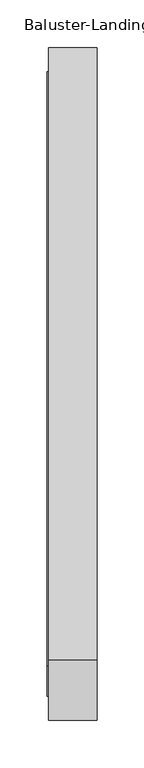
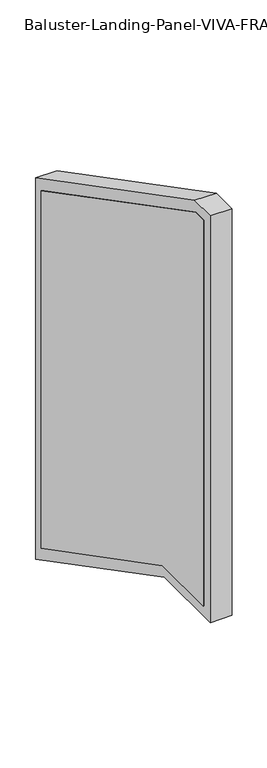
"""IFC4 building model written with IfcOpenShell, lengths in millimetres: railing geometry, Baluster-Landing-Panel-VIVA-FRAME-Lower : Standard_PP01."""

import ifcopenshell
import ifcopenshell.guid

model = None  # the IFC model being written
_history = None  # IfcOwnerHistory: only IFC2X3 demands one
_inside = {}  # id of a spatial element -> (the spatial element, [elements in it])
_under = {}  # id of a project, library or spatial element -> (it, [spatial elements below it])
_declared = {}  # id of a project -> (the project, [libraries it declares])
_typed = {}  # id of a type object -> (the type object, [elements of that type])
_made_of = {}  # id of a material, layer set ... -> (it, [elements and type objects made of it])


def new_model(schema):
    """Start an empty IFC model of exactly this schema.

    Asked for "IFC4X3", IfcOpenShell would pick the latest addendum, in which some entities
    have other attributes; the version numbers below select the first issue.
    IFC2X3 requires an IfcOwnerHistory on every rooted entity: one is made here for all.
    """
    global model, _history
    if schema == "IFC4X3":
        model = ifcopenshell.file(schema_version=(4, 3, 0, 0))
    else:
        model = ifcopenshell.file(schema=schema)
    _inside.clear()
    _under.clear()
    _declared.clear()
    _typed.clear()
    _made_of.clear()
    _history = None
    if model.schema == "IFC2X3":
        org = make("IfcOrganization", Name="unknown")
        user = make(
            "IfcPersonAndOrganization",
            ThePerson=make("IfcPerson", FamilyName="unknown"),
            TheOrganization=org,
        )
        app = make(
            "IfcApplication",
            ApplicationDeveloper=org,
            Version="unknown",
            ApplicationFullName="unknown",
            ApplicationIdentifier="unknown",
        )
        _history = make(
            "IfcOwnerHistory",
            OwningUser=user,
            OwningApplication=app,
            ChangeAction="ADDED",
            CreationDate=0,
        )
    return model


def make(cls, **values):
    """One entity of the class cls with the attributes given. An attribute that is None is left unset."""
    return model.create_entity(
        cls, **{name: value for name, value in values.items() if value is not None}
    )


def rooted(cls, **values):
    """An entity with a GlobalId (a new one), such as an element, a storey or a relation."""
    return make(cls, GlobalId=ifcopenshell.guid.new(), OwnerHistory=_history, **values)


def si_unit(unit_type, name, prefix=None):
    """IfcSIUnit, for example si_unit("LENGTHUNIT", "METRE", prefix="MILLI")."""
    return make("IfcSIUnit", UnitType=unit_type, Prefix=prefix, Name=name)


def assignment(units):
    """IfcUnitAssignment: the units of a project."""
    return None if units is None else make("IfcUnitAssignment", Units=units)


def point(xyz):
    """IfcCartesianPoint."""
    return None if xyz is None else make("IfcCartesianPoint", Coordinates=xyz)


def direction(xyz):
    """IfcDirection."""
    return None if xyz is None else make("IfcDirection", DirectionRatios=xyz)


def frame(location, z_axis=None, x_axis=None):
    """IfcAxis2Placement3D, a coordinate frame: its origin and axes. An axis left out is left unset."""
    return make(
        "IfcAxis2Placement3D",
        Location=point(location),
        Axis=direction(z_axis),
        RefDirection=direction(x_axis),
    )


def origin():
    """The frame at (0, 0, 0) with its axes left unset."""
    return frame((0.0, 0.0, 0.0))


def place(relative_to, where):
    """IfcLocalPlacement: puts the frame where relative to a parent placement (None: the world)."""
    return make(
        "IfcLocalPlacement", PlacementRelTo=relative_to, RelativePlacement=where
    )


def context(
    kind, dimensions, precision=None, world=None, true_north=None, identifier=None
):
    """IfcGeometricRepresentationContext, for example the 3D "Model" context."""
    return make(
        "IfcGeometricRepresentationContext",
        ContextIdentifier=identifier,
        ContextType=kind,
        CoordinateSpaceDimension=dimensions,
        Precision=precision,
        WorldCoordinateSystem=world,
        TrueNorth=true_north,
    )


def project(units=None, contexts=None):
    """IfcProject with its units and contexts."""
    return rooted(
        "IfcProject",
        Name="project",
        RepresentationContexts=contexts,
        UnitsInContext=assignment(units),
    )


def spatial(cls, under=None, at=None, **own):
    """A site, building, storey or space (cls), placed at a placement, below another one or the project."""
    s = rooted(cls, ObjectPlacement=at, **own)
    if under is not None:
        _under.setdefault(under.id(), (under, []))[1].append(s)
    return s


def polyline(points):
    """IfcPolyline through the points."""
    return make("IfcPolyline", Points=[point(p) for p in points])


def outline(outer, holes=None, kind="AREA"):
    """IfcArbitraryClosedProfileDef: a profile drawn as a closed curve; with holes, ...WithVoids."""
    if holes is None:
        return make("IfcArbitraryClosedProfileDef", ProfileType=kind, OuterCurve=outer)
    return make(
        "IfcArbitraryProfileDefWithVoids",
        ProfileType=kind,
        OuterCurve=outer,
        InnerCurves=holes,
    )


def extrude(swept, where, along, depth):
    """IfcExtrudedAreaSolid: the profile swept, set in the frame where, extruded along a direction by depth."""
    return make(
        "IfcExtrudedAreaSolid",
        SweptArea=swept,
        Position=where,
        ExtrudedDirection=direction(along),
        Depth=depth,
    )


def faces_of(points, faces, orient=None, outer=None):
    """IfcFace entities. A face is a list of loops; a loop is a list of indices into points, from 0.

    orient and outer hold one flag for each loop. By default every Orientation is true, the
    first loop of a face is its IfcFaceOuterBound and the others are IfcFaceBound.
    """
    made = []
    for i, loops in enumerate(faces):
        bounds = []
        for j, loop in enumerate(loops):
            is_outer = j == 0 if outer is None else outer[i][j]
            bounds.append(
                make(
                    "IfcFaceOuterBound" if is_outer else "IfcFaceBound",
                    Bound=make("IfcPolyLoop", Polygon=[points[k] for k in loop]),
                    Orientation=True if orient is None else orient[i][j],
                )
            )
        made.append(make("IfcFace", Bounds=bounds))
    return made


def faceted_brep(points, faces, orient=None, outer=None, voids=None):
    """IfcFacetedBrep: a solid bounded by flat faces; with voids (closed shells), ...WithVoids."""
    shared = [point(p) for p in points]
    hull = make("IfcClosedShell", CfsFaces=faces_of(shared, faces, orient, outer))
    if voids is None:
        return make("IfcFacetedBrep", Outer=hull)
    return make(
        "IfcFacetedBrepWithVoids",
        Outer=hull,
        Voids=[
            make(cls, CfsFaces=faces_of(shared, fs, o, b)) for cls, fs, o, b in voids
        ],
    )


def shape(context_of_items, identifier, shape_type, items):
    """IfcShapeRepresentation: the items that make up one representation, for example the "Body"."""
    return make(
        "IfcShapeRepresentation",
        ContextOfItems=context_of_items,
        RepresentationIdentifier=identifier,
        RepresentationType=shape_type,
        Items=items,
    )


def source(mapping_origin, context_of_items, identifier, shape_type, items):
    """IfcRepresentationMap: a shape defined once, which mapped items show again and again."""
    return make(
        "IfcRepresentationMap",
        MappingOrigin=mapping_origin,
        MappedRepresentation=shape(context_of_items, identifier, shape_type, items),
    )


def transform(
    local_origin,
    x_axis=None,
    y_axis=None,
    z_axis=None,
    scale=None,
    scale2=None,
    scale3=None,
    uniform=True,
):
    """IfcCartesianTransformationOperator3D, or its non-uniform kind. x_axis, y_axis, z_axis: its Axis1, 2, 3."""
    if uniform:
        return make(
            "IfcCartesianTransformationOperator3D",
            Axis1=direction(x_axis),
            Axis2=direction(y_axis),
            LocalOrigin=point(local_origin),
            Scale=scale,
            Axis3=direction(z_axis),
        )
    return make(
        "IfcCartesianTransformationOperator3DnonUniform",
        Axis1=direction(x_axis),
        Axis2=direction(y_axis),
        LocalOrigin=point(local_origin),
        Scale=scale,
        Axis3=direction(z_axis),
        Scale2=scale2,
        Scale3=scale3,
    )


def mapped(mapping_source, mapping_target):
    """IfcMappedItem: shows the shape of a source again, moved by a transform."""
    return make(
        "IfcMappedItem", MappingSource=mapping_source, MappingTarget=mapping_target
    )


def made_of(thing, what):
    """Note that an element or type object is made of a material, layer set ...; save() writes the relation."""
    if what is not None:
        _made_of.setdefault(what.id(), (what, []))[1].append(thing)
    return thing


def element(
    cls,
    number,
    at=None,
    inside=None,
    cuts=None,
    type_object=None,
    material=None,
    context=None,
    identifier="Body",
    shape_type=None,
    held_by="IfcProductDefinitionShape",
    body=None,
    shapes=None,
    **own,
):
    """One element of the class cls, such as IfcWall. Its Tag is "e" and its number.

    at: its placement. inside: the storey or other place that contains it. cuts: it is an
    opening in that element (IfcRelVoidsElement). A single representation is given by context,
    identifier, shape_type and body (its items); several are given by shapes. held_by: the class
    of the entity that holds the representations. save() writes the other relations.
    """
    e = rooted(cls, Tag="e%d" % number, ObjectPlacement=at, **own)
    if body is not None:
        shapes = [shape(context, identifier, shape_type, body)]
    if shapes is not None:
        e.Representation = make(held_by, Representations=shapes)
    if inside is not None:
        _inside.setdefault(inside.id(), (inside, []))[1].append(e)
    if cuts is not None:
        rooted(
            "IfcRelVoidsElement", RelatingBuildingElement=cuts, RelatedOpeningElement=e
        )
    if type_object is not None:
        _typed.setdefault(type_object.id(), (type_object, []))[1].append(e)
    return made_of(e, material)


def aggregate(whole, parts):
    """IfcRelAggregates: a whole, such as a stair, and the parts it consists of."""
    return rooted("IfcRelAggregates", RelatingObject=whole, RelatedObjects=parts)


def save(model, path):
    """Write the relations noted so far, then the file.

    IfcRelAggregates (storeys below a building ...), IfcRelContainedInSpatialStructure (elements
    in a storey), IfcRelDefinesByType, IfcRelAssociatesMaterial and IfcRelDeclares: one each for
    every whole, place, type object, material and project.
    """
    for whole, parts in _under.values():
        aggregate(whole, parts)
    for where, things in _inside.values():
        rooted(
            "IfcRelContainedInSpatialStructure",
            RelatedElements=things,
            RelatingStructure=where,
        )
    for kind, things in _typed.values():
        rooted("IfcRelDefinesByType", RelatedObjects=things, RelatingType=kind)
    for what, things in _made_of.values():
        rooted("IfcRelAssociatesMaterial", RelatedObjects=things, RelatingMaterial=what)
    for by, libraries in _declared.values():
        rooted("IfcRelDeclares", RelatingContext=by, RelatedDefinitions=libraries)
    model.write(path)


def baluster_landing_panel_viva_frame_lower_standard_pp01_fe5527e2(model_context):
    return source(origin(), model_context, "Body", "SolidModel", [
        extrude(outline(polyline([(-517.599583, -48.5312648), (-683.6110088, -48.5312648), (-683.6110088, 906.145), (-651.5475888, 906.145), (-25.4, 580.1931965), (-25.4, -304.75415), (-517.599583, -48.5312648)])), frame((14.2584857, 0.0, 0.0), z_axis=(1.0, 0.0, 0.0), x_axis=(0.0, 1.0, 0.0)), (0.0, 0.0, 1.0), 2.9972),
        faceted_brep([(35.6827057, -5.9329371, -336.8348769), (66.4929057, -5.9329371, -336.8348769), (66.4929057, -5.9329371, 592.0061003), (35.6827057, -5.9329371, 592.0061003), (15.6929057, -50.7385371, -262.9975333), (35.6827057, -50.7385371, -262.9975333), (35.6827057, -50.7385371, 564.8173947), (15.6929057, -50.7385371, 564.8173947), (66.4929057, 0.0614629, -346.7133423), (15.6929057, 0.0614629, -346.7133423), (15.6929057, 0.0614629, 595.6435915), (66.4929057, 0.0614629, 595.6435915), (66.4929057, -646.7840288, 925.6120629), (35.6827057, -646.7840288, 925.6120629), (35.6827057, -657.7478894, 880.8064629), (15.6929057, -657.7478894, 880.8064629), (15.6929057, -645.3172085, 931.6064629), (66.4929057, -645.3172085, 931.6064629), (66.4929057, -703.0780717, 925.6120629), (35.6827057, -703.0780717, 925.6120629), (35.6827057, -658.2724717, 880.8064629), (15.6929057, -658.2724717, 880.8064629), (15.6929057, -709.0724717, 931.6064629), (66.4929057, -709.0724717, 931.6064629), (66.4929057, -703.0780717, -67.9983278), (35.6827057, -703.0780717, -67.9983278), (35.6827057, -658.2724717, -23.1927278), (15.6929057, -658.2724717, -23.1927278), (15.6929057, -709.0724717, -73.9927278), (66.4929057, -709.0724717, -73.9927278), (66.4929057, -522.363143, -67.9983278), (35.6827057, -522.363143, -67.9983278), (35.6827057, -511.3992824, -23.1927278), (15.6929057, -511.3992824, -23.1927278), (15.6929057, -523.8299633, -73.9927278), (66.4929057, -523.8299633, -73.9927278)], [[[0, 1, 2, 3]], [[4, 5, 6, 7]], [[8, 9, 10, 11]], [[3, 2, 12, 13]], [[7, 6, 14, 15]], [[11, 10, 16, 17]], [[13, 12, 18, 19]], [[15, 14, 20, 21]], [[17, 16, 22, 23]], [[19, 18, 24, 25]], [[21, 20, 26, 27]], [[23, 22, 28, 29]], [[25, 24, 30, 31]], [[27, 26, 32, 33]], [[29, 28, 34, 35]], [[23, 29, 35, 8, 11, 17], [1, 30, 24, 18, 12, 2]], [[31, 30, 1, 0]], [[19, 25, 31, 0, 3, 13], [5, 32, 26, 20, 14, 6]], [[33, 32, 5, 4]], [[9, 34, 28, 22, 16, 10], [21, 27, 33, 4, 7, 15]], [[35, 34, 9, 8]]]),
    ])


if __name__ == "__main__":
    model = new_model("IFC4")
    model_context = context("Model", 3, world=origin())
    ifc_project = project(units=[si_unit("LENGTHUNIT", "METRE", prefix="MILLI")], contexts=[model_context])
    site = spatial("IfcSite", under=ifc_project)
    building = spatial("IfcBuilding", under=site)
    placement = place(None, origin())
    baluster_landing_panel_viva_frame_lower_standard_pp01_shape = baluster_landing_panel_viva_frame_lower_standard_pp01_fe5527e2(model_context)
    element("IfcRailing", 1, ObjectType="Baluster-Landing-Panel-VIVA-FRAME-Lower : Standard_PP01", at=placement, inside=building, context=model_context, shape_type="MappedRepresentation", body=[
        mapped(baluster_landing_panel_viva_frame_lower_standard_pp01_shape, transform((0.0, 0.0, 0.0), x_axis=(1.0, 0.0, 0.0), y_axis=(0.0, 1.0, 0.0), z_axis=(0.0, 0.0, 1.0))),
    ])
    save(model, "model.ifc")
